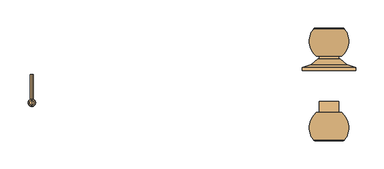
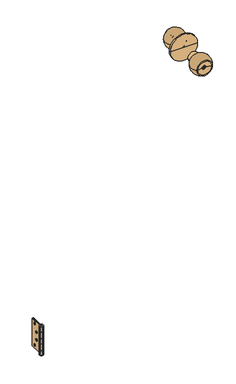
"""IFC4 building model written with IfcOpenShell, lengths in millimetres: door geometry, Puerta contraplacada : Puerta contraplacada 0.7x2.10 m."""

from ifc_helpers import new_model, si_unit, point, frame, frame_2d, origin, place, context, project, spatial, polyline, circle_curve, ellipse_curve, trimmed, segment, composite_curve, outline, extrude, source, transform, mapped, element, save
from ifc_brep_helpers import plane_surface, cylinder_surface, revolved_surface, advanced_brep


def door_be1cc8a4(model_context):
    return source(origin(), model_context, "Body", "SolidModel", [
        advanced_brep(
        [(-314.0, -7.5, 200.0349265), (-314.0, -51.5, 200.0349265), (-314.0, -51.5, 184.5349265), (-314.0, -51.0, 184.5349265), (-314.0, -51.0, 159.0349265), (-314.0, -51.5, 159.0349265), (-314.0, -51.5, 141.0349265), (-314.0, -51.0, 141.0349265), (-314.0, -51.0, 115.5349265), (-314.0, -51.5, 115.5349265), (-314.0, -51.5, 100.0349265), (-314.0, -7.5, 100.0349265), (-314.0, -17.5, 111.0349265), (-314.0, -25.5, 111.0349265), (-314.0, -28.5, 136.0349265), (-314.0, -36.5, 136.0349265), (-314.0, -17.5, 189.0349265), (-314.0, -25.5, 189.0349265), (-314.0, -28.5, 164.0349265), (-314.0, -36.5, 164.0349265), (-316.0, -7.5, 100.0349265), (-316.0, -53.027864, 100.0349265), (-316.0, -53.027864, 115.5349265), (-316.0, -51.0, 115.5349265), (-316.0, -51.0, 141.0349265), (-316.0, -53.027864, 141.0349265), (-316.0, -53.027864, 159.0349265), (-316.0, -51.0, 159.0349265), (-316.0, -51.0, 184.5349265), (-316.0, -53.027864, 184.5349265), (-316.0, -53.027864, 200.0349265), (-316.0, -7.5, 200.0349265), (-316.0, -25.5, 111.0349265), (-316.0, -17.5, 111.0349265), (-316.0, -36.5, 136.0349265), (-316.0, -28.5, 136.0349265), (-316.0, -25.5, 189.0349265), (-316.0, -17.5, 189.0349265), (-316.0, -36.5, 164.0349265), (-316.0, -28.5, 164.0349265), (-317.0, -51.0192593, 100.0349265), (-317.0, -53.027864, 100.0349265), (-317.0, -53.027864, 200.0349265), (-317.0, -51.0192593, 200.0349265), (-317.0, -51.0192593, 184.5349265), (-317.0, -53.027864, 184.5349265), (-317.0, -53.027864, 159.0349265), (-317.0, -51.0192593, 159.0349265), (-317.0, -51.0192593, 141.0349265), (-317.0, -53.027864, 141.0349265), (-317.0, -53.027864, 115.5349265), (-317.0, -51.0192593, 115.5349265)],
        [
            (0, 1),
            (1, 2),
            (2, 3),
            (3, 4),
            (4, 5),
            (5, 6),
            (6, 7),
            (7, 8),
            (8, 9),
            (9, 10),
            (10, 11),
            (11, 0),
            (12, 13, circle_curve(frame((-314.0, -21.5, 111.0349265), z_axis=(-1.0, 0.0, 0.0), x_axis=(0.0, 1.0, 0.0)), 4.0)),
            (13, 12, circle_curve(frame((-314.0, -21.5, 111.0349265), z_axis=(-1.0, 0.0, 0.0), x_axis=(0.0, 1.0, 0.0)), 4.0)),
            (14, 15, circle_curve(frame((-314.0, -32.5, 136.0349265), z_axis=(-1.0, 0.0, 0.0), x_axis=(0.0, 1.0, 0.0)), 4.0)),
            (15, 14, circle_curve(frame((-314.0, -32.5, 136.0349265), z_axis=(-1.0, 0.0, 0.0), x_axis=(0.0, 1.0, 0.0)), 4.0)),
            (16, 17, circle_curve(frame((-314.0, -21.5, 189.0349265), z_axis=(-1.0, 0.0, 0.0), x_axis=(0.0, 1.0, 0.0)), 4.0)),
            (17, 16, circle_curve(frame((-314.0, -21.5, 189.0349265), z_axis=(-1.0, 0.0, 0.0), x_axis=(0.0, 1.0, 0.0)), 4.0)),
            (18, 19, circle_curve(frame((-314.0, -32.5, 164.0349265), z_axis=(-1.0, 0.0, 0.0), x_axis=(0.0, 1.0, 0.0)), 4.0)),
            (19, 18, circle_curve(frame((-314.0, -32.5, 164.0349265), z_axis=(-1.0, 0.0, 0.0), x_axis=(0.0, 1.0, 0.0)), 4.0)),
            (20, 21),
            (21, 22),
            (22, 23),
            (23, 24),
            (24, 25),
            (25, 26),
            (26, 27),
            (27, 28),
            (28, 29),
            (29, 30),
            (30, 31),
            (31, 20),
            (32, 33, circle_curve(frame((-316.0, -21.5, 111.0349265), z_axis=(1.0, 0.0, 0.0), x_axis=(0.0, 1.0, 0.0)), 4.0)),
            (33, 32, circle_curve(frame((-316.0, -21.5, 111.0349265), z_axis=(1.0, 0.0, 0.0), x_axis=(0.0, 1.0, 0.0)), 4.0)),
            (34, 35, circle_curve(frame((-316.0, -32.5, 136.0349265), z_axis=(1.0, 0.0, 0.0), x_axis=(0.0, 1.0, 0.0)), 4.0)),
            (35, 34, circle_curve(frame((-316.0, -32.5, 136.0349265), z_axis=(1.0, 0.0, 0.0), x_axis=(0.0, 1.0, 0.0)), 4.0)),
            (36, 37, circle_curve(frame((-316.0, -21.5, 189.0349265), z_axis=(1.0, 0.0, 0.0), x_axis=(0.0, 1.0, 0.0)), 4.0)),
            (37, 36, circle_curve(frame((-316.0, -21.5, 189.0349265), z_axis=(1.0, 0.0, 0.0), x_axis=(0.0, 1.0, 0.0)), 4.0)),
            (38, 39, circle_curve(frame((-316.0, -32.5, 164.0349265), z_axis=(1.0, 0.0, 0.0), x_axis=(0.0, 1.0, 0.0)), 4.0)),
            (39, 38, circle_curve(frame((-316.0, -32.5, 164.0349265), z_axis=(1.0, 0.0, 0.0), x_axis=(0.0, 1.0, 0.0)), 4.0)),
            (10, 40, circle_curve(frame((-316.5, -57.5, 100.0349265), z_axis=(0.0, 0.0, -1.0), x_axis=(0.0, -1.0, 0.0)), 6.5)),
            (40, 41),
            (41, 21, circle_curve(frame((-316.5, -57.5, 100.0349265), z_axis=(0.0, 0.0, 1.0), x_axis=(0.0, -1.0, 0.0)), 4.5)),
            (20, 11),
            (31, 0),
            (30, 42, circle_curve(frame((-316.5, -57.5, 200.0349265), z_axis=(0.0, 0.0, -1.0), x_axis=(0.0, -1.0, 0.0)), 4.5)),
            (42, 43),
            (43, 1, circle_curve(frame((-316.5, -57.5, 200.0349265), z_axis=(0.0, 0.0, 1.0), x_axis=(0.0, -1.0, 0.0)), 6.5)),
            (27, 4),
            (3, 28),
            (23, 8),
            (7, 24),
            (2, 44, circle_curve(frame((-316.5, -57.5, 184.5349265), z_axis=(0.0, 0.0, -1.0), x_axis=(0.0, -1.0, 0.0)), 6.5)),
            (44, 45),
            (45, 29, circle_curve(frame((-316.5, -57.5, 184.5349265), z_axis=(0.0, 0.0, 1.0), x_axis=(0.0, -1.0, 0.0)), 4.5)),
            (43, 44),
            (42, 45),
            (26, 46, circle_curve(frame((-316.5, -57.5, 159.0349265), z_axis=(0.0, 0.0, -1.0), x_axis=(0.0, -1.0, 0.0)), 4.5)),
            (46, 47),
            (47, 5, circle_curve(frame((-316.5, -57.5, 159.0349265), z_axis=(0.0, 0.0, 1.0), x_axis=(0.0, -1.0, 0.0)), 6.5)),
            (6, 48, circle_curve(frame((-316.5, -57.5, 141.0349265), z_axis=(0.0, 0.0, -1.0), x_axis=(0.0, -1.0, 0.0)), 6.5)),
            (48, 49),
            (49, 25, circle_curve(frame((-316.5, -57.5, 141.0349265), z_axis=(0.0, 0.0, 1.0), x_axis=(0.0, -1.0, 0.0)), 4.5)),
            (47, 48),
            (46, 49),
            (22, 50, circle_curve(frame((-316.5, -57.5, 115.5349265), z_axis=(0.0, 0.0, -1.0), x_axis=(0.0, -1.0, 0.0)), 4.5)),
            (50, 51),
            (51, 9, circle_curve(frame((-316.5, -57.5, 115.5349265), z_axis=(0.0, 0.0, 1.0), x_axis=(0.0, -1.0, 0.0)), 6.5)),
            (51, 40),
            (50, 41),
            (33, 12),
            (13, 32),
            (35, 14),
            (15, 34),
            (37, 16),
            (17, 36),
            (39, 18),
            (19, 38),
        ],
        [
            plane_surface(frame((-314.0, -51.0, 100.0349265), z_axis=(1.0, 0.0, 0.0), x_axis=(0.0, 0.0, 1.0))),
            plane_surface(frame((-316.0, -51.0, 100.0349265), z_axis=(-1.0, 0.0, 0.0), x_axis=(0.0, 0.0, -1.0))),
            plane_surface(frame((-314.0, -7.5, 100.0349265), z_axis=(0.0, 0.0, -1.0), x_axis=(-1.0, 0.0, 0.0))),
            plane_surface(frame((-314.0, -7.5, 200.0349265), z_axis=(0.0, 1.0, 0.0), x_axis=(-1.0, 0.0, 0.0))),
            plane_surface(frame((-314.0, -51.0, 200.0349265), z_axis=(0.0, 0.0, 1.0), x_axis=(-1.0, 0.0, 0.0))),
            plane_surface(frame((-314.0, -51.0, 100.0349265), z_axis=(0.0, -1.0, 0.0), x_axis=(-1.0, 0.0, 0.0))),
            plane_surface(frame((-316.0, -51.0, 184.5349265), z_axis=(0.0, 0.0, -1.0), x_axis=(0.0, -1.0, 0.0))),
            cylinder_surface(frame((-316.5, -57.5, 184.5349265), z_axis=(0.0, 0.0, 1.0), x_axis=(0.0, -1.0, 0.0)), 6.5),
            plane_surface(frame((-317.0, -51.0192593, 200.0349265), z_axis=(1.0, 0.0, 0.0), x_axis=(0.0, 0.0, -1.0))),
            revolved_surface(polyline([(-316.5, -62.0, 184.5349265), (-316.5, -62.0, 200.0349265)]), (-316.5, -57.5, 184.5349265), (0.0, 0.0, -1.0)),
            plane_surface(frame((-316.0, -51.0, 159.0349265), z_axis=(0.0, 0.0, 1.0), x_axis=(0.0, 1.0, 0.0))),
            plane_surface(frame((-316.0, -51.0, 141.0349265), z_axis=(0.0, 0.0, -1.0), x_axis=(0.0, -1.0, 0.0))),
            cylinder_surface(frame((-316.5, -57.5, 141.0349265), z_axis=(0.0, 0.0, 1.0), x_axis=(0.0, -1.0, 0.0)), 6.5),
            plane_surface(frame((-317.0, -51.0192593, 159.0349265), z_axis=(1.0, 0.0, 0.0), x_axis=(0.0, 0.0, -1.0))),
            revolved_surface(polyline([(-316.5, -62.0, 141.0349265), (-316.5, -62.0, 159.0349265)]), (-316.5, -57.5, 141.0349265), (0.0, 0.0, -1.0)),
            plane_surface(frame((-316.0, -51.0, 115.5349265), z_axis=(0.0, 0.0, 1.0), x_axis=(0.0, 1.0, 0.0))),
            cylinder_surface(frame((-316.5, -57.5, 100.0349265), z_axis=(0.0, 0.0, 1.0), x_axis=(0.0, -1.0, 0.0)), 6.5),
            plane_surface(frame((-317.0, -51.0192593, 115.5349265), z_axis=(1.0, 0.0, 0.0), x_axis=(0.0, 0.0, -1.0))),
            revolved_surface(polyline([(-316.5, -62.0, 100.0349265), (-316.5, -62.0, 115.5349265)]), (-316.5, -57.5, 100.0349265), (0.0, 0.0, -1.0)),
            revolved_surface(polyline([(-314.0, -17.5, 111.0349265), (-316.0, -17.5, 111.0349265)]), (-319.0, -21.5, 111.0349265), (1.0, 0.0, 0.0)),
            revolved_surface(polyline([(-314.0, -28.5, 136.0349265), (-316.0, -28.5, 136.0349265)]), (-317.0, -32.5, 136.0349265), (1.0, 0.0, 0.0)),
            revolved_surface(polyline([(-314.0, -17.5, 189.0349265), (-316.0, -17.5, 189.0349265)]), (-317.0, -21.5, 189.0349265), (1.0, 0.0, 0.0)),
            revolved_surface(polyline([(-314.0, -28.5, 164.0349265), (-316.0, -28.5, 164.0349265)]), (-317.0, -32.5, 164.0349265), (1.0, 0.0, 0.0)),
        ],
        [
            (0, [[1, 2, 3, 4, 5, 6, 7, 8, 9, 10, 11, 12], [13, 14], [15, 16], [17, 18], [19, 20]]),
            (1, [[21, 22, 23, 24, 25, 26, 27, 28, 29, 30, 31, 32], [33, 34], [35, 36], [37, 38], [39, 40]]),
            (2, [[-11, 41, 42, 43, -21, 44]]),
            (3, [[-44, -32, 45, -12]]),
            (4, [[-31, 46, 47, 48, -1, -45]]),
            (5, [[-28, 49, -4, 50]]),
            (5, [[-24, 51, -8, 52]]),
            (6, [[-29, -50, -3, 53, 54, 55]]),
            (7, [[56, -53, -2, -48]]),
            (8, [[57, -54, -56, -47]]),
            (9, [[-30, -55, -57, -46]]),
            (10, [[-5, -49, -27, 58, 59, 60]]),
            (11, [[-25, -52, -7, 61, 62, 63]]),
            (12, [[64, -61, -6, -60]]),
            (13, [[65, -62, -64, -59]]),
            (14, [[-26, -63, -65, -58]]),
            (15, [[-9, -51, -23, 66, 67, 68]]),
            (16, [[69, -41, -10, -68]]),
            (17, [[70, -42, -69, -67]]),
            (18, [[-22, -43, -70, -66]]),
            (19, [[-34, 71, -14, 72]]),
            (19, [[-13, -71, -33, -72]]),
            (20, [[-36, 73, -16, 74]]),
            (20, [[-15, -73, -35, -74]]),
            (21, [[-38, 75, -18, 76]]),
            (21, [[-17, -75, -37, -76]]),
            (22, [[-40, 77, -20, 78]]),
            (22, [[-19, -77, -39, -78]]),
        ],
    ),
        advanced_brep(
        [(-316.5, -53.0, 204.0349265), (-316.5, -53.0, 200.5349265), (-316.5, -61.9442719, 200.5349265), (-316.5, -61.9442719, 204.0349265), (-316.5, -57.472136, 204.0349265), (-316.5, -53.0, 96.0349265), (-316.5, -57.472136, 96.0349265), (-316.5, -61.9442719, 96.0349265), (-316.5, -53.0, 99.5349265), (-316.5, -61.9442719, 99.5349265)],
        [
            (0, 1, circle_curve(frame((-316.5, -53.0, 202.2849265), z_axis=(-1.0, 0.0, 0.0), x_axis=(0.0, -1.0, 0.0)), 1.75)),
            (1, 2, circle_curve(frame((-316.5, -57.472136, 200.5349265), z_axis=(0.0, 0.0, 1.0), x_axis=(0.0, -1.0, 0.0)), 4.472136)),
            (2, 3, circle_curve(frame((-316.5, -61.9442719, 202.2849265), z_axis=(-1.0, 0.0, 0.0), x_axis=(0.0, 1.0, 0.0)), 1.75)),
            (3, 0, circle_curve(frame((-316.5, -57.472136, 204.0349265), z_axis=(0.0, 0.0, -1.0), x_axis=(0.0, -1.0, 0.0)), 4.472136)),
            (2, 1, circle_curve(frame((-316.5, -57.472136, 200.5349265), z_axis=(0.0, 0.0, 1.0), x_axis=(0.0, -1.0, 0.0)), 4.472136)),
            (0, 3, circle_curve(frame((-316.5, -57.472136, 204.0349265), z_axis=(0.0, 0.0, -1.0), x_axis=(0.0, -1.0, 0.0)), 4.472136)),
            (4, 0),
            (3, 4),
            (5, 6),
            (6, 7),
            (7, 5, circle_curve(frame((-316.5, -57.472136, 96.0349265), z_axis=(0.0, 0.0, -1.0), x_axis=(0.0, -1.0, 0.0)), 4.472136)),
            (5, 7, circle_curve(frame((-316.5, -57.472136, 96.0349265), z_axis=(0.0, 0.0, -1.0), x_axis=(0.0, -1.0, 0.0)), 4.472136)),
            (8, 5, circle_curve(frame((-316.5, -53.0, 97.7849265), z_axis=(-1.0, 0.0, 0.0), x_axis=(0.0, -1.0, 0.0)), 1.75)),
            (7, 9, circle_curve(frame((-316.5, -61.9442719, 97.7849265), z_axis=(-1.0, 0.0, 0.0), x_axis=(0.0, 1.0, 0.0)), 1.75)),
            (9, 8, circle_curve(frame((-316.5, -57.472136, 99.5349265), z_axis=(0.0, 0.0, -1.0), x_axis=(0.0, -1.0, 0.0)), 4.472136)),
            (8, 9, circle_curve(frame((-316.5, -57.472136, 99.5349265), z_axis=(0.0, 0.0, -1.0), x_axis=(0.0, -1.0, 0.0)), 4.472136)),
            (1, 8),
            (9, 2),
        ],
        [
            revolved_surface(trimmed(ellipse_curve(frame((-316.5, -61.9442719, 202.2849265), z_axis=(-1.0, 0.0, 0.0), x_axis=(0.0, 1.0, 0.0)), 1.75, 1.75), [point((-316.5, -61.9442719, 200.5349265))], [point((-316.5, -61.9442719, 204.0349265))], True, "CARTESIAN"), (-316.5, -57.472136, 204.0349265), (0.0, 0.0, 1.0)),
            plane_surface(frame((-316.5, -57.472136, 204.0349265), z_axis=(0.0, 0.0, 1.0), x_axis=(0.0, -1.0, 0.0))),
            plane_surface(frame((-316.5, -57.472136, 96.0349265), z_axis=(0.0, 0.0, -1.0), x_axis=(0.0, -1.0, 0.0))),
            revolved_surface(trimmed(ellipse_curve(frame((-316.5, -61.9442719, 97.7849265), z_axis=(-1.0, 0.0, 0.0), x_axis=(0.0, 1.0, 0.0)), 1.75, 1.75), [point((-316.5, -61.9442719, 96.0349265))], [point((-316.5, -61.9442719, 99.5349265))], True, "CARTESIAN"), (-316.5, -57.472136, 204.0349265), (0.0, 0.0, 1.0)),
            cylinder_surface(frame((-316.5, -57.472136, 204.0349265), z_axis=(0.0, 0.0, 1.0), x_axis=(0.0, -1.0, 0.0)), 4.472136),
        ],
        [
            (0, [[1, 2, 3, 4]]),
            (0, [[-3, 5, -1, 6]]),
            (1, [[7, -4, 8]]),
            (1, [[-8, -6, -7]]),
            (2, [[9, 10, 11]]),
            (2, [[-10, -9, 12]]),
            (3, [[13, -11, 14, 15]]),
            (3, [[-14, -12, -13, 16]]),
            (4, [[17, -15, 18, -2]]),
            (4, [[-18, -16, -17, -5]]),
        ],
    ),
        advanced_brep(
        [(-317.0, -51.0, 200.0349265), (-317.0, -51.0, 183.5349265), (-317.0, -53.027864, 183.5349265), (-317.0, -53.027864, 160.0349265), (-317.0, -51.0, 160.0349265), (-317.0, -51.0, 140.0349265), (-317.0, -53.027864, 140.0349265), (-317.0, -53.027864, 116.5349265), (-317.0, -51.0, 116.5349265), (-317.0, -51.0, 100.0349265), (-317.0, -7.5, 100.0349265), (-317.0, -7.5, 200.0349265), (-317.0, -17.5, 111.0349265), (-317.0, -25.5, 111.0349265), (-317.0, -28.5, 136.0349265), (-317.0, -36.5, 136.0349265), (-317.0, -17.5, 189.0349265), (-317.0, -25.5, 189.0349265), (-317.0, -28.5, 164.0349265), (-317.0, -36.5, 164.0349265), (-319.0, -51.0, 100.0349265), (-319.0, -51.0, 116.5349265), (-319.0, -51.5, 116.5349265), (-319.0, -51.5, 140.0349265), (-319.0, -51.0, 140.0349265), (-319.0, -51.0, 160.0349265), (-319.0, -51.5, 160.0349265), (-319.0, -51.5, 183.5349265), (-319.0, -51.0, 183.5349265), (-319.0, -51.0, 200.0349265), (-319.0, -7.5, 200.0349265), (-319.0, -7.5, 100.0349265), (-319.0, -25.5, 111.0349265), (-319.0, -17.5, 111.0349265), (-319.0, -36.5, 136.0349265), (-319.0, -28.5, 136.0349265), (-319.0, -25.5, 189.0349265), (-319.0, -17.5, 189.0349265), (-319.0, -36.5, 164.0349265), (-319.0, -28.5, 164.0349265), (-316.0, -51.0192593, 183.5349265), (-316.0, -53.027864, 183.5349265), (-316.0, -53.027864, 160.0349265), (-316.0, -51.0192593, 160.0349265), (-316.0, -51.0192593, 140.0349265), (-316.0, -53.027864, 140.0349265), (-316.0, -53.027864, 116.5349265), (-316.0, -51.0192593, 116.5349265)],
        [
            (0, 1),
            (1, 2),
            (2, 3),
            (3, 4),
            (4, 5),
            (5, 6),
            (6, 7),
            (7, 8),
            (8, 9),
            (9, 10),
            (10, 11),
            (11, 0),
            (12, 13, circle_curve(frame((-317.0, -21.5, 111.0349265), z_axis=(-1.0, 0.0, 0.0), x_axis=(0.0, 1.0, 0.0)), 4.0)),
            (13, 12, circle_curve(frame((-317.0, -21.5, 111.0349265), z_axis=(-1.0, 0.0, 0.0), x_axis=(0.0, 1.0, 0.0)), 4.0)),
            (14, 15, circle_curve(frame((-317.0, -32.5, 136.0349265), z_axis=(-1.0, 0.0, 0.0), x_axis=(0.0, 1.0, 0.0)), 4.0)),
            (15, 14, circle_curve(frame((-317.0, -32.5, 136.0349265), z_axis=(-1.0, 0.0, 0.0), x_axis=(0.0, 1.0, 0.0)), 4.0)),
            (16, 17, circle_curve(frame((-317.0, -21.5, 189.0349265), z_axis=(-1.0, 0.0, 0.0), x_axis=(0.0, 1.0, 0.0)), 4.0)),
            (17, 16, circle_curve(frame((-317.0, -21.5, 189.0349265), z_axis=(-1.0, 0.0, 0.0), x_axis=(0.0, 1.0, 0.0)), 4.0)),
            (18, 19, circle_curve(frame((-317.0, -32.5, 164.0349265), z_axis=(-1.0, 0.0, 0.0), x_axis=(0.0, 1.0, 0.0)), 4.0)),
            (19, 18, circle_curve(frame((-317.0, -32.5, 164.0349265), z_axis=(-1.0, 0.0, 0.0), x_axis=(0.0, 1.0, 0.0)), 4.0)),
            (20, 21),
            (21, 22),
            (22, 23),
            (23, 24),
            (24, 25),
            (25, 26),
            (26, 27),
            (27, 28),
            (28, 29),
            (29, 30),
            (30, 31),
            (31, 20),
            (32, 33, circle_curve(frame((-319.0, -21.5, 111.0349265), z_axis=(1.0, 0.0, 0.0), x_axis=(0.0, 1.0, 0.0)), 4.0)),
            (33, 32, circle_curve(frame((-319.0, -21.5, 111.0349265), z_axis=(1.0, 0.0, 0.0), x_axis=(0.0, 1.0, 0.0)), 4.0)),
            (34, 35, circle_curve(frame((-319.0, -32.5, 136.0349265), z_axis=(1.0, 0.0, 0.0), x_axis=(0.0, 1.0, 0.0)), 4.0)),
            (35, 34, circle_curve(frame((-319.0, -32.5, 136.0349265), z_axis=(1.0, 0.0, 0.0), x_axis=(0.0, 1.0, 0.0)), 4.0)),
            (36, 37, circle_curve(frame((-319.0, -21.5, 189.0349265), z_axis=(1.0, 0.0, 0.0), x_axis=(0.0, 1.0, 0.0)), 4.0)),
            (37, 36, circle_curve(frame((-319.0, -21.5, 189.0349265), z_axis=(1.0, 0.0, 0.0), x_axis=(0.0, 1.0, 0.0)), 4.0)),
            (38, 39, circle_curve(frame((-319.0, -32.5, 164.0349265), z_axis=(1.0, 0.0, 0.0), x_axis=(0.0, 1.0, 0.0)), 4.0)),
            (39, 38, circle_curve(frame((-319.0, -32.5, 164.0349265), z_axis=(1.0, 0.0, 0.0), x_axis=(0.0, 1.0, 0.0)), 4.0)),
            (9, 20),
            (31, 10),
            (30, 11),
            (29, 0),
            (8, 21),
            (28, 1),
            (24, 5),
            (4, 25),
            (27, 40, circle_curve(frame((-316.5, -57.5, 183.5349265), z_axis=(0.0, 0.0, 1.0), x_axis=(0.0, -1.0, 0.0)), 6.5)),
            (40, 41),
            (41, 2, circle_curve(frame((-316.5, -57.5, 183.5349265), z_axis=(0.0, 0.0, -1.0), x_axis=(0.0, -1.0, 0.0)), 4.5)),
            (3, 42, circle_curve(frame((-316.5, -57.5, 160.0349265), z_axis=(0.0, 0.0, 1.0), x_axis=(0.0, -1.0, 0.0)), 4.5)),
            (42, 43),
            (43, 26, circle_curve(frame((-316.5, -57.5, 160.0349265), z_axis=(0.0, 0.0, -1.0), x_axis=(0.0, -1.0, 0.0)), 6.5)),
            (43, 40),
            (42, 41),
            (23, 44, circle_curve(frame((-316.5, -57.5, 140.0349265), z_axis=(0.0, 0.0, 1.0), x_axis=(0.0, -1.0, 0.0)), 6.5)),
            (44, 45),
            (45, 6, circle_curve(frame((-316.5, -57.5, 140.0349265), z_axis=(0.0, 0.0, -1.0), x_axis=(0.0, -1.0, 0.0)), 4.5)),
            (7, 46, circle_curve(frame((-316.5, -57.5, 116.5349265), z_axis=(0.0, 0.0, 1.0), x_axis=(0.0, -1.0, 0.0)), 4.5)),
            (46, 47),
            (47, 22, circle_curve(frame((-316.5, -57.5, 116.5349265), z_axis=(0.0, 0.0, -1.0), x_axis=(0.0, -1.0, 0.0)), 6.5)),
            (47, 44),
            (46, 45),
            (33, 12),
            (13, 32),
            (35, 14),
            (15, 34),
            (37, 16),
            (17, 36),
            (39, 18),
            (19, 38),
        ],
        [
            plane_surface(frame((-317.0, -51.0, 100.0349265), z_axis=(1.0, 0.0, 0.0), x_axis=(0.0, 0.0, 1.0))),
            plane_surface(frame((-319.0, -51.0, 100.0349265), z_axis=(-1.0, 0.0, 0.0), x_axis=(0.0, 0.0, -1.0))),
            plane_surface(frame((-317.0, -7.5, 100.0349265), z_axis=(0.0, 0.0, -1.0), x_axis=(-1.0, 0.0, 0.0))),
            plane_surface(frame((-317.0, -7.5, 200.0349265), z_axis=(0.0, 1.0, 0.0), x_axis=(-1.0, 0.0, 0.0))),
            plane_surface(frame((-317.0, -51.0, 200.0349265), z_axis=(0.0, 0.0, 1.0), x_axis=(-1.0, 0.0, 0.0))),
            plane_surface(frame((-317.0, -51.0, 100.0349265), z_axis=(0.0, -1.0, 0.0), x_axis=(-1.0, 0.0, 0.0))),
            plane_surface(frame((-316.5, -62.0, 183.5349265), z_axis=(0.0, 0.0, 1.0), x_axis=(1.0, 0.0, 0.0))),
            plane_surface(frame((-316.5, -62.0, 160.0349265), z_axis=(0.0, 0.0, -1.0), x_axis=(-1.0, 0.0, 0.0))),
            cylinder_surface(frame((-316.5, -57.5, 160.0349265), z_axis=(0.0, 0.0, 1.0), x_axis=(0.0, -1.0, 0.0)), 6.5),
            plane_surface(frame((-316.0, -53.027864, 183.5349265), z_axis=(-1.0, 0.0, 0.0), x_axis=(0.0, 0.0, -1.0))),
            revolved_surface(polyline([(-316.5, -62.0, 160.0349265), (-316.5, -62.0, 183.5349265)]), (-316.5, -57.5, 160.0349265), (0.0, 0.0, -1.0)),
            plane_surface(frame((-316.5, -62.0, 140.0349265), z_axis=(0.0, 0.0, 1.0), x_axis=(1.0, 0.0, 0.0))),
            plane_surface(frame((-316.5, -62.0, 116.5349265), z_axis=(0.0, 0.0, -1.0), x_axis=(-1.0, 0.0, 0.0))),
            cylinder_surface(frame((-316.5, -57.5, 116.5349265), z_axis=(0.0, 0.0, 1.0), x_axis=(0.0, -1.0, 0.0)), 6.5),
            plane_surface(frame((-316.0, -53.027864, 140.0349265), z_axis=(-1.0, 0.0, 0.0), x_axis=(0.0, 0.0, -1.0))),
            revolved_surface(polyline([(-316.5, -62.0, 116.5349265), (-316.5, -62.0, 140.0349265)]), (-316.5, -57.5, 116.5349265), (0.0, 0.0, -1.0)),
            revolved_surface(polyline([(-317.0, -17.5, 111.0349265), (-319.0, -17.5, 111.0349265)]), (-319.0, -21.5, 111.0349265), (1.0, 0.0, 0.0)),
            revolved_surface(polyline([(-317.0, -28.5, 136.0349265), (-319.0, -28.5, 136.0349265)]), (-317.0, -32.5, 136.0349265), (1.0, 0.0, 0.0)),
            revolved_surface(polyline([(-317.0, -17.5, 189.0349265), (-319.0, -17.5, 189.0349265)]), (-317.0, -21.5, 189.0349265), (1.0, 0.0, 0.0)),
            revolved_surface(polyline([(-317.0, -28.5, 164.0349265), (-319.0, -28.5, 164.0349265)]), (-317.0, -32.5, 164.0349265), (1.0, 0.0, 0.0)),
        ],
        [
            (0, [[1, 2, 3, 4, 5, 6, 7, 8, 9, 10, 11, 12], [13, 14], [15, 16], [17, 18], [19, 20]]),
            (1, [[21, 22, 23, 24, 25, 26, 27, 28, 29, 30, 31, 32], [33, 34], [35, 36], [37, 38], [39, 40]]),
            (2, [[41, -32, 42, -10]]),
            (3, [[-42, -31, 43, -11]]),
            (4, [[-43, -30, 44, -12]]),
            (5, [[-9, 45, -21, -41]]),
            (5, [[-29, 46, -1, -44]]),
            (5, [[-25, 47, -5, 48]]),
            (6, [[-2, -46, -28, 49, 50, 51]]),
            (7, [[-26, -48, -4, 52, 53, 54]]),
            (8, [[-27, -54, 55, -49]]),
            (9, [[-55, -53, 56, -50]]),
            (10, [[-56, -52, -3, -51]]),
            (11, [[-6, -47, -24, 57, 58, 59]]),
            (12, [[-22, -45, -8, 60, 61, 62]]),
            (13, [[-23, -62, 63, -57]]),
            (14, [[-63, -61, 64, -58]]),
            (15, [[-64, -60, -7, -59]]),
            (16, [[-34, 65, -14, 66]]),
            (16, [[-13, -65, -33, -66]]),
            (17, [[-36, 67, -16, 68]]),
            (17, [[-15, -67, -35, -68]]),
            (18, [[-38, 69, -18, 70]]),
            (18, [[-17, -69, -37, -70]]),
            (19, [[-40, 71, -20, 72]]),
            (19, [[-19, -71, -39, -72]]),
        ],
    ),
        advanced_brep(
        [(233.5312643, 74.946362, 1000.0), (216.48125, 70.0573491, 1000.0), (204.08125, 70.0573491, 1000.0), (187.0312357, 74.946362, 1000.0), (216.48125, 66.5726145, 1000.0), (204.08125, 66.5726145, 1000.0), (210.28125, 66.5726145, 1000.0), (187.840796, 25.0, 1000.0), (209.28125, 25.0, 1000.0), (210.28125, 25.0, 1000.0), (210.28125, 25.0, 1004.2233344), (211.28125, 25.0, 1004.2233344), (211.28125, 25.0, 1000.0), (232.721704, 25.0, 1000.0), (211.28125, 25.0, 995.9198337), (209.28125, 25.0, 995.9198337), (209.28125, 25.0, 997.5508857), (210.28125, 25.0, 997.5508857), (210.28125, 25.0, 998.7784645), (209.28125, 25.0, 998.7784645), (237.7045262, 73.6071088, 1000.0), (182.8579738, 73.6071088, 1000.0), (211.28125, 33.4273855, 995.9198337), (211.28125, 33.4273855, 1004.2233344), (210.28125, 33.4273855, 1004.2233344), (210.28125, 33.4273855, 1000.0), (209.28125, 33.4273855, 1000.0), (209.28125, 33.4273855, 998.7784645), (210.28125, 33.4273855, 998.7784645), (210.28125, 33.4273855, 997.5508857), (209.28125, 33.4273855, 997.5508857), (209.28125, 33.4273855, 995.9198337)],
        [
            (0, 1),
            (1, 2, circle_curve(frame((210.28125, 70.0573491, 1000.0), z_axis=(0.0, -1.0, 0.0), x_axis=(-1.0, 0.0, 0.0)), 6.2)),
            (2, 3),
            (3, 0, circle_curve(frame((210.28125, 74.946362, 1000.0), z_axis=(0.0, 1.0, 0.0), x_axis=(-1.0, 0.0, 0.0)), 23.2500143)),
            (2, 1, circle_curve(frame((210.28125, 70.0573491, 1000.0), z_axis=(0.0, -1.0, 0.0), x_axis=(-1.0, 0.0, 0.0)), 6.2)),
            (0, 3, circle_curve(frame((210.28125, 74.946362, 1000.0), z_axis=(0.0, 1.0, 0.0), x_axis=(-1.0, 0.0, 0.0)), 23.2500143)),
            (1, 4),
            (4, 5, circle_curve(frame((210.28125, 66.5726145, 1000.0), z_axis=(0.0, -1.0, 0.0), x_axis=(-1.0, 0.0, 0.0)), 6.2)),
            (5, 2),
            (5, 4, circle_curve(frame((210.28125, 66.5726145, 1000.0), z_axis=(0.0, -1.0, 0.0), x_axis=(-1.0, 0.0, 0.0)), 6.2)),
            (4, 6),
            (6, 5),
            (7, 8),
            (8, 9),
            (9, 10),
            (10, 11),
            (11, 12),
            (12, 13),
            (13, 7, circle_curve(frame((210.28125, 25.0, 1000.0), z_axis=(0.0, -1.0, 0.0), x_axis=(-1.0, 0.0, 0.0)), 22.440454)),
            (12, 14),
            (14, 15),
            (15, 16),
            (16, 17),
            (17, 18),
            (18, 19),
            (19, 8),
            (7, 13, circle_curve(frame((210.28125, 25.0, 1000.0), z_axis=(0.0, -1.0, 0.0), x_axis=(-1.0, 0.0, 0.0)), 22.440454)),
            (13, 20, circle_curve(frame((210.28125, 51.859375, 1000.0), z_axis=(0.0, 0.0, 1.0), x_axis=(-1.0, 0.0, 0.0)), 35.0)),
            (20, 21, circle_curve(frame((210.28125, 73.6071088, 1000.0), z_axis=(0.0, -1.0, 0.0), x_axis=(-1.0, 0.0, 0.0)), 27.4232762)),
            (21, 7, circle_curve(frame((210.28125, 51.859375, 1000.0), z_axis=(0.0, 0.0, 1.0), x_axis=(1.0, 0.0, 0.0)), 35.0)),
            (21, 20, circle_curve(frame((210.28125, 73.6071088, 1000.0), z_axis=(0.0, -1.0, 0.0), x_axis=(-1.0, 0.0, 0.0)), 27.4232762)),
            (3, 21, circle_curve(frame((185.9451794, 71.1588336, 1000.0), z_axis=(0.0, 0.0, 1.0), x_axis=(1.0, 0.0, 0.0)), 3.9401636)),
            (20, 0, circle_curve(frame((234.6173206, 71.1588336, 1000.0), z_axis=(0.0, 0.0, 1.0), x_axis=(-1.0, 0.0, 0.0)), 3.9401636)),
            (22, 23),
            (23, 24),
            (24, 25),
            (25, 26),
            (26, 27),
            (27, 28),
            (28, 29),
            (29, 30),
            (30, 31),
            (31, 22),
            (31, 15),
            (14, 22),
            (30, 16),
            (29, 17),
            (28, 18),
            (27, 19),
            (26, 8),
            (25, 9),
            (24, 10),
            (23, 11),
        ],
        [
            revolved_surface(polyline([(204.08125, 70.0573491, 1000.0), (187.0312357, 74.946362, 1000.0)]), (210.28125, 27.0, 1000.0), (0.0, -1.0, 0.0)),
            revolved_surface(polyline([(204.08125, 66.5726145, 1000.0), (204.08125, 70.0573491, 1000.0)]), (210.28125, 27.0, 1000.0), (0.0, -1.0, 0.0)),
            plane_surface(frame((210.28125, 66.5726145, 1000.0), z_axis=(0.0, 1.0, 0.0), x_axis=(-1.0, 0.0, 0.0))),
            plane_surface(frame((210.28125, 25.0, 1000.0), z_axis=(0.0, -1.0, 0.0), x_axis=(-1.0, 0.0, 0.0))),
            revolved_surface(trimmed(ellipse_curve(frame((210.28125, 51.859375, 1000.0), z_axis=(0.0, 0.0, 1.0), x_axis=(1.0, 0.0, 0.0)), 35.0, 35.0), [point((182.8579738, 73.6071088, 1000.0))], [point((187.840796, 25.0, 1000.0))], True, "CARTESIAN"), (210.28125, 27.0, 1000.0), (0.0, -1.0, 0.0)),
            revolved_surface(trimmed(ellipse_curve(frame((185.9451794, 71.1588336, 1000.0), z_axis=(0.0, 0.0, 1.0), x_axis=(1.0, 0.0, 0.0)), 3.9401636, 3.9401636), [point((187.0312357, 74.946362, 1000.0))], [point((182.8579738, 73.6071088, 1000.0))], True, "CARTESIAN"), (210.28125, 27.0, 1000.0), (0.0, -1.0, 0.0)),
            plane_surface(frame((209.28125, 33.4273855, 995.9198337), z_axis=(0.0, -1.0, 0.0), x_axis=(1.0, 0.0, 0.0))),
            plane_surface(frame((211.28125, 18.8970167, 995.9198337), z_axis=(0.0, 0.0, 1.0), x_axis=(0.0, 1.0, 0.0))),
            plane_surface(frame((209.28125, 18.8970167, 995.9198337), z_axis=(1.0, 0.0, 0.0), x_axis=(0.0, 1.0, 0.0))),
            plane_surface(frame((209.28125, 18.8970167, 997.5508857), z_axis=(0.0, 0.0, -1.0), x_axis=(0.0, 1.0, 0.0))),
            plane_surface(frame((210.28125, 18.8970167, 997.5508857), z_axis=(1.0, 0.0, 0.0), x_axis=(0.0, 1.0, 0.0))),
            plane_surface(frame((210.28125, 18.8970167, 998.7784645), z_axis=(0.0, 0.0, 1.0), x_axis=(0.0, 1.0, 0.0))),
            plane_surface(frame((209.28125, 18.8970167, 998.7784645), z_axis=(1.0, 0.0, 0.0), x_axis=(0.0, 1.0, 0.0))),
            plane_surface(frame((209.28125, 18.8970167, 1000.0), z_axis=(0.0, 0.0, -1.0), x_axis=(0.0, 1.0, 0.0))),
            plane_surface(frame((210.28125, 18.8970167, 1000.0), z_axis=(1.0, 0.0, 0.0), x_axis=(0.0, 1.0, 0.0))),
            plane_surface(frame((210.28125, 18.8970167, 1004.2233344), z_axis=(0.0, 0.0, -1.0), x_axis=(0.0, 1.0, 0.0))),
            plane_surface(frame((211.28125, 18.8970167, 1004.2233344), z_axis=(-1.0, 0.0, 0.0), x_axis=(0.0, 1.0, 0.0))),
        ],
        [
            (0, [[1, 2, 3, 4]]),
            (0, [[5, -1, 6, -3]]),
            (1, [[7, 8, 9, -2]]),
            (1, [[-9, 10, -7, -5]]),
            (2, [[11, 12, -8]]),
            (2, [[-12, -11, -10]]),
            (3, [[13, 14, 15, 16, 17, 18, 19]]),
            (3, [[-18, 20, 21, 22, 23, 24, 25, 26, -13, 27]]),
            (4, [[28, 29, 30, -19]]),
            (4, [[-30, 31, -28, -27]]),
            (5, [[32, -29, 33, -4]]),
            (5, [[-33, -31, -32, -6]]),
            (6, [[34, 35, 36, 37, 38, 39, 40, 41, 42, 43]]),
            (7, [[44, -21, 45, -43]]),
            (8, [[46, -22, -44, -42]]),
            (9, [[47, -23, -46, -41]]),
            (10, [[48, -24, -47, -40]]),
            (11, [[49, -25, -48, -39]]),
            (12, [[50, -26, -49, -38]]),
            (13, [[51, -14, -50, -37]]),
            (14, [[52, -15, -51, -36]]),
            (15, [[53, -16, -52, -35]]),
            (16, [[-45, -20, -17, -53, -34]]),
        ],
    ),
        advanced_brep(
        [(192.78125, 5.0, 1000.0), (227.78125, 5.0, 1000.0), (192.78125, 25.0, 1000.0), (227.78125, 25.0, 1000.0), (211.28125, 25.0, 995.9198337), (211.28125, 25.0, 1004.2233344), (210.28125, 25.0, 1004.2233344), (210.28125, 25.0, 1000.0), (209.28125, 25.0, 1000.0), (209.28125, 25.0, 998.7784645), (210.28125, 25.0, 998.7784645), (210.28125, 25.0, 997.5508857), (209.28125, 25.0, 997.5508857), (209.28125, 25.0, 995.9198337), (211.28125, 18.8970167, 995.9198337), (209.28125, 18.8970167, 995.9198337), (209.28125, 18.8970167, 997.5508857), (210.28125, 18.8970167, 997.5508857), (210.28125, 18.8970167, 998.7784645), (209.28125, 18.8970167, 998.7784645), (209.28125, 18.8970167, 1000.0), (210.28125, 18.8970167, 1000.0), (210.28125, 18.8970167, 1004.2233344), (211.28125, 18.8970167, 1004.2233344)],
        [
            (0, 1, circle_curve(frame((210.28125, 5.0, 1000.0), z_axis=(0.0, -1.0, 0.0), x_axis=(1.0, 0.0, 0.0)), 17.5)),
            (1, 0, circle_curve(frame((210.28125, 5.0, 1000.0), z_axis=(0.0, -1.0, 0.0), x_axis=(1.0, 0.0, 0.0)), 17.5)),
            (2, 3, circle_curve(frame((210.28125, 25.0, 1000.0), z_axis=(0.0, 1.0, 0.0), x_axis=(1.0, 0.0, 0.0)), 17.5)),
            (3, 2, circle_curve(frame((210.28125, 25.0, 1000.0), z_axis=(0.0, 1.0, 0.0), x_axis=(1.0, 0.0, 0.0)), 17.5)),
            (4, 5),
            (5, 6),
            (6, 7),
            (7, 8),
            (8, 9),
            (9, 10),
            (10, 11),
            (11, 12),
            (12, 13),
            (13, 4),
            (1, 3),
            (2, 0),
            (14, 15),
            (15, 16),
            (16, 17),
            (17, 18),
            (18, 19),
            (19, 20),
            (20, 21),
            (21, 22),
            (22, 23),
            (23, 14),
            (14, 4),
            (13, 15),
            (12, 16),
            (11, 17),
            (10, 18),
            (9, 19),
            (8, 20),
            (7, 21),
            (6, 22),
            (5, 23),
        ],
        [
            plane_surface(frame((227.78125, 5.0, 1000.0), z_axis=(0.0, -1.0, 0.0), x_axis=(0.0, 0.0, -1.0))),
            plane_surface(frame((227.78125, 25.0, 1000.0), z_axis=(0.0, 1.0, 0.0), x_axis=(0.0, 0.0, 1.0))),
            cylinder_surface(frame((210.28125, 25.0, 1000.0), z_axis=(0.0, -1.0, 0.0), x_axis=(1.0, 0.0, 0.0)), 17.5),
            plane_surface(frame((209.28125, 18.8970167, 995.9198337), z_axis=(0.0, 1.0, 0.0), x_axis=(-1.0, 0.0, 0.0))),
            plane_surface(frame((211.28125, 18.8970167, 995.9198337), z_axis=(0.0, 0.0, 1.0), x_axis=(0.0, 1.0, 0.0))),
            plane_surface(frame((209.28125, 18.8970167, 995.9198337), z_axis=(1.0, 0.0, 0.0), x_axis=(0.0, 1.0, 0.0))),
            plane_surface(frame((209.28125, 18.8970167, 997.5508857), z_axis=(0.0, 0.0, -1.0), x_axis=(0.0, 1.0, 0.0))),
            plane_surface(frame((210.28125, 18.8970167, 997.5508857), z_axis=(1.0, 0.0, 0.0), x_axis=(0.0, 1.0, 0.0))),
            plane_surface(frame((210.28125, 18.8970167, 998.7784645), z_axis=(0.0, 0.0, 1.0), x_axis=(0.0, 1.0, 0.0))),
            plane_surface(frame((209.28125, 18.8970167, 998.7784645), z_axis=(1.0, 0.0, 0.0), x_axis=(0.0, 1.0, 0.0))),
            plane_surface(frame((209.28125, 18.8970167, 1000.0), z_axis=(0.0, 0.0, -1.0), x_axis=(0.0, 1.0, 0.0))),
            plane_surface(frame((210.28125, 18.8970167, 1000.0), z_axis=(1.0, 0.0, 0.0), x_axis=(0.0, 1.0, 0.0))),
            plane_surface(frame((210.28125, 18.8970167, 1004.2233344), z_axis=(0.0, 0.0, -1.0), x_axis=(0.0, 1.0, 0.0))),
            plane_surface(frame((211.28125, 18.8970167, 1004.2233344), z_axis=(-1.0, 0.0, 0.0), x_axis=(0.0, 1.0, 0.0))),
        ],
        [
            (0, [[1, 2]]),
            (1, [[3, 4], [5, 6, 7, 8, 9, 10, 11, 12, 13, 14]]),
            (2, [[15, -3, 16, -2]]),
            (2, [[-16, -4, -15, -1]]),
            (3, [[17, 18, 19, 20, 21, 22, 23, 24, 25, 26]]),
            (4, [[27, -14, 28, -17]]),
            (5, [[-28, -13, 29, -18]]),
            (6, [[-29, -12, 30, -19]]),
            (7, [[-30, -11, 31, -20]]),
            (8, [[-31, -10, 32, -21]]),
            (9, [[-32, -9, 33, -22]]),
            (10, [[-33, -8, 34, -23]]),
            (11, [[-34, -7, 35, -24]]),
            (12, [[-35, -6, 36, -25]]),
            (13, [[-36, -5, -27, -26]]),
        ],
    ),
        advanced_brep(
        [(216.203125, -120.0573491, 1000.0), (216.203125, -116.5726145, 1000.0), (204.359375, -116.5726145, 1000.0), (204.359375, -120.0573491, 1000.0), (205.359375, -120.0573491, 1000.0), (215.203125, -120.0573491, 1000.0), (209.28125, -120.0573491, 1000.0), (210.28125, -120.0573491, 1000.0), (210.28125, -120.0573491, 1004.2233344), (211.28125, -120.0573491, 1004.2233344), (211.28125, -120.0573491, 1000.0), (211.28125, -120.0573491, 995.9198337), (209.28125, -120.0573491, 995.9198337), (209.28125, -120.0573491, 997.5508857), (210.28125, -120.0573491, 997.5508857), (210.28125, -120.0573491, 998.7784645), (209.28125, -120.0573491, 998.7784645), (211.28125, -116.5726145, 1000.0), (211.28125, -116.5726145, 1004.2233344), (210.28125, -116.5726145, 1004.2233344), (210.28125, -116.5726145, 1000.0), (209.28125, -116.5726145, 1000.0), (209.28125, -116.5726145, 998.7784645), (210.28125, -116.5726145, 998.7784645), (210.28125, -116.5726145, 997.5508857), (209.28125, -116.5726145, 997.5508857), (209.28125, -116.5726145, 995.9198337), (211.28125, -116.5726145, 995.9198337)],
        [
            (0, 1),
            (1, 2, circle_curve(frame((210.28125, -116.5726145, 1000.0), z_axis=(0.0, -1.0, 0.0), x_axis=(-1.0, 0.0, 0.0)), 5.921875)),
            (2, 3),
            (3, 0, circle_curve(frame((210.28125, -120.0573491, 1000.0), z_axis=(0.0, 1.0, 0.0), x_axis=(-1.0, 0.0, 0.0)), 5.921875)),
            (2, 1, circle_curve(frame((210.28125, -116.5726145, 1000.0), z_axis=(0.0, -1.0, 0.0), x_axis=(-1.0, 0.0, 0.0)), 5.921875)),
            (0, 3, circle_curve(frame((210.28125, -120.0573491, 1000.0), z_axis=(0.0, 1.0, 0.0), x_axis=(-1.0, 0.0, 0.0)), 5.921875)),
            (3, 4, circle_curve(frame((204.859375, -120.0573491, 1000.0), z_axis=(0.0, 0.0, 1.0), x_axis=(1.0, 0.0, 0.0)), 0.5)),
            (4, 5, circle_curve(frame((210.28125, -120.0573491, 1000.0), z_axis=(0.0, 1.0, 0.0), x_axis=(-1.0, 0.0, 0.0)), 4.921875)),
            (5, 0, circle_curve(frame((215.703125, -120.0573491, 1000.0), z_axis=(0.0, 0.0, 1.0), x_axis=(-1.0, 0.0, 0.0)), 0.5)),
            (5, 4, circle_curve(frame((210.28125, -120.0573491, 1000.0), z_axis=(0.0, 1.0, 0.0), x_axis=(-1.0, 0.0, 0.0)), 4.921875)),
            (4, 6),
            (6, 7),
            (7, 8),
            (8, 9),
            (9, 10),
            (10, 5),
            (10, 11),
            (11, 12),
            (12, 13),
            (13, 14),
            (14, 15),
            (15, 16),
            (16, 6),
            (1, 17),
            (17, 18),
            (18, 19),
            (19, 20),
            (20, 21),
            (21, 2),
            (21, 22),
            (22, 23),
            (23, 24),
            (24, 25),
            (25, 26),
            (26, 27),
            (27, 17),
            (26, 12),
            (11, 27),
            (25, 13),
            (24, 14),
            (23, 15),
            (22, 16),
            (21, 6),
            (20, 7),
            (19, 8),
            (18, 9),
        ],
        [
            cylinder_surface(frame((210.28125, -116.5726145, 1000.0), z_axis=(0.0, -1.0, 0.0), x_axis=(-1.0, 0.0, 0.0)), 5.921875),
            revolved_surface(trimmed(ellipse_curve(frame((204.859375, -120.0573491, 1000.0), z_axis=(0.0, 0.0, 1.0), x_axis=(1.0, 0.0, 0.0)), 0.5, 0.5), [point((204.359375, -120.0573491, 1000.0))], [point((205.359375, -120.0573491, 1000.0))], True, "CARTESIAN"), (210.28125, -116.5726145, 1000.0), (0.0, -1.0, 0.0)),
            plane_surface(frame((210.28125, -120.0573491, 1000.0), z_axis=(0.0, -1.0, 0.0), x_axis=(-1.0, 0.0, 0.0))),
            plane_surface(frame((210.28125, -116.5726145, 1000.0), z_axis=(0.0, 1.0, 0.0), x_axis=(-1.0, 0.0, 0.0))),
            plane_surface(frame((211.28125, -131.1029833, 995.9198337), z_axis=(0.0, 0.0, 1.0), x_axis=(0.0, 1.0, 0.0))),
            plane_surface(frame((209.28125, -131.1029833, 995.9198337), z_axis=(1.0, 0.0, 0.0), x_axis=(0.0, 1.0, 0.0))),
            plane_surface(frame((209.28125, -131.1029833, 997.5508857), z_axis=(0.0, 0.0, -1.0), x_axis=(0.0, 1.0, 0.0))),
            plane_surface(frame((210.28125, -131.1029833, 997.5508857), z_axis=(1.0, 0.0, 0.0), x_axis=(0.0, 1.0, 0.0))),
            plane_surface(frame((210.28125, -131.1029833, 998.7784645), z_axis=(0.0, 0.0, 1.0), x_axis=(0.0, 1.0, 0.0))),
            plane_surface(frame((209.28125, -131.1029833, 998.7784645), z_axis=(1.0, 0.0, 0.0), x_axis=(0.0, 1.0, 0.0))),
            plane_surface(frame((209.28125, -131.1029833, 1000.0), z_axis=(0.0, 0.0, -1.0), x_axis=(0.0, 1.0, 0.0))),
            plane_surface(frame((210.28125, -131.1029833, 1000.0), z_axis=(1.0, 0.0, 0.0), x_axis=(0.0, 1.0, 0.0))),
            plane_surface(frame((210.28125, -131.1029833, 1004.2233344), z_axis=(0.0, 0.0, -1.0), x_axis=(0.0, 1.0, 0.0))),
            plane_surface(frame((211.28125, -131.1029833, 1004.2233344), z_axis=(-1.0, 0.0, 0.0), x_axis=(0.0, 1.0, 0.0))),
        ],
        [
            (0, [[1, 2, 3, 4]]),
            (0, [[5, -1, 6, -3]]),
            (1, [[7, 8, 9, -4]]),
            (1, [[-9, 10, -7, -6]]),
            (2, [[11, 12, 13, 14, 15, 16, -8]]),
            (2, [[-16, 17, 18, 19, 20, 21, 22, 23, -11, -10]]),
            (3, [[24, 25, 26, 27, 28, 29, -2]]),
            (3, [[-29, 30, 31, 32, 33, 34, 35, 36, -24, -5]]),
            (4, [[-35, 37, -18, 38]]),
            (5, [[-34, 39, -19, -37]]),
            (6, [[-33, 40, -20, -39]]),
            (7, [[-32, 41, -21, -40]]),
            (8, [[-31, 42, -22, -41]]),
            (9, [[-23, -42, -30, 43]]),
            (10, [[-28, 44, -12, -43]]),
            (11, [[-27, 45, -13, -44]]),
            (12, [[-26, 46, -14, -45]]),
            (13, [[-17, -15, -46, -25, -36, -38]]),
        ],
    ),
        advanced_brep(
        [(216.48125, -120.0573491, 1000.0), (233.5312643, -124.946362, 1000.0), (187.0312357, -124.946362, 1000.0), (204.08125, -120.0573491, 1000.0), (204.08125, -116.5726145, 1000.0), (216.48125, -116.5726145, 1000.0), (209.28125, -116.5726145, 1000.0), (210.28125, -116.5726145, 1000.0), (211.28125, -116.5726145, 1000.0), (232.721704, -75.0, 1000.0), (210.28125, -75.0, 1000.0), (187.840796, -75.0, 1000.0), (182.8579738, -123.6071088, 1000.0), (237.7045262, -123.6071088, 1000.0)],
        [
            (0, 1),
            (1, 2, circle_curve(frame((210.28125, -124.946362, 1000.0), z_axis=(0.0, -1.0, 0.0), x_axis=(-1.0, 0.0, 0.0)), 23.2500143)),
            (2, 3),
            (3, 0, circle_curve(frame((210.28125, -120.0573491, 1000.0), z_axis=(0.0, 1.0, 0.0), x_axis=(-1.0, 0.0, 0.0)), 6.2)),
            (2, 1, circle_curve(frame((210.28125, -124.946362, 1000.0), z_axis=(0.0, -1.0, 0.0), x_axis=(-1.0, 0.0, 0.0)), 23.2500143)),
            (0, 3, circle_curve(frame((210.28125, -120.0573491, 1000.0), z_axis=(0.0, 1.0, 0.0), x_axis=(-1.0, 0.0, 0.0)), 6.2)),
            (3, 4),
            (4, 5, circle_curve(frame((210.28125, -116.5726145, 1000.0), z_axis=(0.0, 1.0, 0.0), x_axis=(-1.0, 0.0, 0.0)), 6.2)),
            (5, 0),
            (5, 4, circle_curve(frame((210.28125, -116.5726145, 1000.0), z_axis=(0.0, 1.0, 0.0), x_axis=(-1.0, 0.0, 0.0)), 6.2)),
            (4, 6),
            (6, 7),
            (7, 8),
            (8, 5),
            (9, 10),
            (10, 11),
            (11, 9, circle_curve(frame((210.28125, -75.0, 1000.0), z_axis=(0.0, 1.0, 0.0), x_axis=(-1.0, 0.0, 0.0)), 22.440454)),
            (9, 11, circle_curve(frame((210.28125, -75.0, 1000.0), z_axis=(0.0, 1.0, 0.0), x_axis=(-1.0, 0.0, 0.0)), 22.440454)),
            (11, 12, circle_curve(frame((210.28125, -101.859375, 1000.0), z_axis=(0.0, 0.0, 1.0), x_axis=(1.0, 0.0, 0.0)), 35.0)),
            (12, 13, circle_curve(frame((210.28125, -123.6071088, 1000.0), z_axis=(0.0, 1.0, 0.0), x_axis=(-1.0, 0.0, 0.0)), 27.4232762)),
            (13, 9, circle_curve(frame((210.28125, -101.859375, 1000.0), z_axis=(0.0, 0.0, 1.0), x_axis=(-1.0, 0.0, 0.0)), 35.0)),
            (13, 12, circle_curve(frame((210.28125, -123.6071088, 1000.0), z_axis=(0.0, 1.0, 0.0), x_axis=(-1.0, 0.0, 0.0)), 27.4232762)),
            (1, 13, circle_curve(frame((234.6173206, -121.1588336, 1000.0), z_axis=(0.0, 0.0, 1.0), x_axis=(-1.0, 0.0, 0.0)), 3.9401636)),
            (12, 2, circle_curve(frame((185.9451794, -121.1588336, 1000.0), z_axis=(0.0, 0.0, 1.0), x_axis=(1.0, 0.0, 0.0)), 3.9401636)),
        ],
        [
            revolved_surface(polyline([(187.0312357, -124.946362, 1000.0), (204.08125, -120.0573491, 1000.0)]), (210.28125, -77.0, 1000.0), (0.0, -1.0, 0.0)),
            revolved_surface(polyline([(204.08125, -120.0573491, 1000.0), (204.08125, -116.5726145, 1000.0)]), (210.28125, -77.0, 1000.0), (0.0, -1.0, 0.0)),
            plane_surface(frame((210.28125, -116.5726145, 1000.0), z_axis=(0.0, -1.0, 0.0), x_axis=(-1.0, 0.0, 0.0))),
            plane_surface(frame((210.28125, -75.0, 1000.0), z_axis=(0.0, 1.0, 0.0), x_axis=(-1.0, 0.0, 0.0))),
            revolved_surface(trimmed(ellipse_curve(frame((210.28125, -101.859375, 1000.0), z_axis=(0.0, 0.0, 1.0), x_axis=(1.0, 0.0, 0.0)), 35.0, 35.0), [point((187.840796, -75.0, 1000.0))], [point((182.8579738, -123.6071088, 1000.0))], True, "CARTESIAN"), (210.28125, -77.0, 1000.0), (0.0, -1.0, 0.0)),
            revolved_surface(trimmed(ellipse_curve(frame((185.9451794, -121.1588336, 1000.0), z_axis=(0.0, 0.0, 1.0), x_axis=(1.0, 0.0, 0.0)), 3.9401636, 3.9401636), [point((182.8579738, -123.6071088, 1000.0))], [point((187.0312357, -124.946362, 1000.0))], True, "CARTESIAN"), (210.28125, -77.0, 1000.0), (0.0, -1.0, 0.0)),
        ],
        [
            (0, [[1, 2, 3, 4]]),
            (0, [[5, -1, 6, -3]]),
            (1, [[7, 8, 9, -4]]),
            (1, [[-9, 10, -7, -6]]),
            (2, [[11, 12, 13, 14, -8]]),
            (2, [[-14, -13, -12, -11, -10]]),
            (3, [[15, 16, 17]]),
            (3, [[-15, 18, -16]]),
            (4, [[19, 20, 21, -17]]),
            (4, [[-21, 22, -19, -18]]),
            (5, [[23, -20, 24, -2]]),
            (5, [[-24, -22, -23, -5]]),
        ],
    ),
        advanced_brep(
        [(216.203125, 66.5726145, 1000.0), (216.203125, 70.0573491, 1000.0), (204.359375, 70.0573491, 1000.0), (204.359375, 66.5726145, 1000.0), (215.203125, 70.0573491, 1000.0), (205.359375, 70.0573491, 1000.0), (210.28125, 70.0573491, 1000.0), (210.28125, 66.5726145, 1000.0)],
        [
            (0, 1),
            (1, 2, circle_curve(frame((210.28125, 70.0573491, 1000.0), z_axis=(0.0, -1.0, 0.0), x_axis=(-1.0, 0.0, 0.0)), 5.921875)),
            (2, 3),
            (3, 0, circle_curve(frame((210.28125, 66.5726145, 1000.0), z_axis=(0.0, 1.0, 0.0), x_axis=(-1.0, 0.0, 0.0)), 5.921875)),
            (2, 1, circle_curve(frame((210.28125, 70.0573491, 1000.0), z_axis=(0.0, -1.0, 0.0), x_axis=(-1.0, 0.0, 0.0)), 5.921875)),
            (0, 3, circle_curve(frame((210.28125, 66.5726145, 1000.0), z_axis=(0.0, 1.0, 0.0), x_axis=(-1.0, 0.0, 0.0)), 5.921875)),
            (1, 4, circle_curve(frame((215.703125, 70.0573491, 1000.0), z_axis=(0.0, 0.0, 1.0), x_axis=(-1.0, 0.0, 0.0)), 0.5)),
            (4, 5, circle_curve(frame((210.28125, 70.0573491, 1000.0), z_axis=(0.0, -1.0, 0.0), x_axis=(-1.0, 0.0, 0.0)), 4.921875)),
            (5, 2, circle_curve(frame((204.859375, 70.0573491, 1000.0), z_axis=(0.0, 0.0, 1.0), x_axis=(1.0, 0.0, 0.0)), 0.5)),
            (5, 4, circle_curve(frame((210.28125, 70.0573491, 1000.0), z_axis=(0.0, -1.0, 0.0), x_axis=(-1.0, 0.0, 0.0)), 4.921875)),
            (4, 6),
            (6, 5),
            (7, 0),
            (3, 7),
        ],
        [
            cylinder_surface(frame((210.28125, 66.5726145, 1000.0), z_axis=(0.0, -1.0, 0.0), x_axis=(-1.0, 0.0, 0.0)), 5.921875),
            revolved_surface(trimmed(ellipse_curve(frame((204.859375, 70.0573491, 1000.0), z_axis=(0.0, 0.0, 1.0), x_axis=(1.0, 0.0, 0.0)), 0.5, 0.5), [point((205.359375, 70.0573491, 1000.0))], [point((204.359375, 70.0573491, 1000.0))], True, "CARTESIAN"), (210.28125, 66.5726145, 1000.0), (0.0, -1.0, 0.0)),
            plane_surface(frame((210.28125, 70.0573491, 1000.0), z_axis=(0.0, 1.0, 0.0), x_axis=(-1.0, 0.0, 0.0))),
            plane_surface(frame((210.28125, 66.5726145, 1000.0), z_axis=(0.0, -1.0, 0.0), x_axis=(-1.0, 0.0, 0.0))),
        ],
        [
            (0, [[1, 2, 3, 4]]),
            (0, [[-3, 5, -1, 6]]),
            (1, [[7, 8, 9, -2]]),
            (1, [[-9, 10, -7, -5]]),
            (2, [[11, 12, -8]]),
            (2, [[-12, -11, -10]]),
            (3, [[13, -4, 14]]),
            (3, [[-14, -6, -13]]),
        ],
    ),
        advanced_brep(
        [(257.78125, 0.0, 1000.0), (257.78125, 5.0, 1000.0), (162.78125, 5.0, 1000.0), (162.78125, 0.0, 1000.0), (241.78125, 10.0, 1000.0), (178.78125, 10.0, 1000.0), (229.9828812, 20.0, 1000.0), (190.5796188, 20.0, 1000.0), (228.1741787, 20.0, 1000.0), (192.3883213, 20.0, 1000.0), (228.1741787, 5.0, 1000.0), (192.3883213, 5.0, 1000.0), (210.28125, 5.0, 1000.0), (210.28125, 0.0, 1000.0)],
        [
            (0, 1),
            (1, 2, circle_curve(frame((210.28125, 5.0, 1000.0), z_axis=(0.0, -1.0, 0.0), x_axis=(-1.0, 0.0, 0.0)), 47.5)),
            (2, 3),
            (3, 0, circle_curve(frame((210.28125, 0.0, 1000.0), z_axis=(0.0, 1.0, 0.0), x_axis=(-1.0, 0.0, 0.0)), 47.5)),
            (2, 1, circle_curve(frame((210.28125, 5.0, 1000.0), z_axis=(0.0, -1.0, 0.0), x_axis=(-1.0, 0.0, 0.0)), 47.5)),
            (0, 3, circle_curve(frame((210.28125, 0.0, 1000.0), z_axis=(0.0, 1.0, 0.0), x_axis=(-1.0, 0.0, 0.0)), 47.5)),
            (1, 4),
            (4, 5, circle_curve(frame((210.28125, 10.0, 1000.0), z_axis=(0.0, -1.0, 0.0), x_axis=(-1.0, 0.0, 0.0)), 31.5)),
            (5, 2),
            (5, 4, circle_curve(frame((210.28125, 10.0, 1000.0), z_axis=(0.0, -1.0, 0.0), x_axis=(-1.0, 0.0, 0.0)), 31.5)),
            (4, 6),
            (6, 7, circle_curve(frame((210.28125, 20.0, 1000.0), z_axis=(0.0, -1.0, 0.0), x_axis=(-1.0, 0.0, 0.0)), 19.7016312)),
            (7, 5),
            (7, 6, circle_curve(frame((210.28125, 20.0, 1000.0), z_axis=(0.0, -1.0, 0.0), x_axis=(-1.0, 0.0, 0.0)), 19.7016312)),
            (6, 8),
            (8, 9, circle_curve(frame((210.28125, 20.0, 1000.0), z_axis=(0.0, -1.0, 0.0), x_axis=(-1.0, 0.0, 0.0)), 17.8929287)),
            (9, 7),
            (9, 8, circle_curve(frame((210.28125, 20.0, 1000.0), z_axis=(0.0, -1.0, 0.0), x_axis=(-1.0, 0.0, 0.0)), 17.8929287)),
            (8, 10),
            (10, 11, circle_curve(frame((210.28125, 5.0, 1000.0), z_axis=(0.0, -1.0, 0.0), x_axis=(-1.0, 0.0, 0.0)), 17.8929287)),
            (11, 9),
            (11, 10, circle_curve(frame((210.28125, 5.0, 1000.0), z_axis=(0.0, -1.0, 0.0), x_axis=(-1.0, 0.0, 0.0)), 17.8929287)),
            (10, 12),
            (12, 11),
            (13, 0),
            (3, 13),
        ],
        [
            cylinder_surface(frame((210.28125, 0.0, 1000.0), z_axis=(0.0, -1.0, 0.0), x_axis=(-1.0, 0.0, 0.0)), 47.5),
            revolved_surface(polyline([(178.78125, 10.0, 1000.0), (162.78125, 5.0, 1000.0)]), (210.28125, 0.0, 1000.0), (0.0, -1.0, 0.0)),
            revolved_surface(polyline([(190.5796188, 20.0, 1000.0), (178.78125, 10.0, 1000.0)]), (210.28125, 0.0, 1000.0), (0.0, -1.0, 0.0)),
            plane_surface(frame((210.28125, 20.0, 1000.0), z_axis=(0.0, 1.0, 0.0), x_axis=(-1.0, 0.0, 0.0))),
            revolved_surface(polyline([(192.3883213, 5.0, 1000.0), (192.3883213, 20.0, 1000.0)]), (210.28125, 0.0, 1000.0), (0.0, -1.0, 0.0)),
            plane_surface(frame((210.28125, 5.0, 1000.0), z_axis=(0.0, 1.0, 0.0), x_axis=(-1.0, 0.0, 0.0))),
            plane_surface(frame((210.28125, 0.0, 1000.0), z_axis=(0.0, -1.0, 0.0), x_axis=(-1.0, 0.0, 0.0))),
        ],
        [
            (0, [[1, 2, 3, 4]]),
            (0, [[-3, 5, -1, 6]]),
            (1, [[7, 8, 9, -2]]),
            (1, [[-9, 10, -7, -5]]),
            (2, [[11, 12, 13, -8]]),
            (2, [[-13, 14, -11, -10]]),
            (3, [[15, 16, 17, -12]]),
            (3, [[-17, 18, -15, -14]]),
            (4, [[19, 20, 21, -16]]),
            (4, [[-21, 22, -19, -18]]),
            (5, [[23, 24, -20]]),
            (5, [[-24, -23, -22]]),
            (6, [[25, -4, 26]]),
            (6, [[-26, -6, -25]]),
        ],
    ),
        extrude(outline(composite_curve([segment(trimmed(circle_curve(frame_2d((1000.0, 210.28125)), 17.5), [point((1000.0, 192.78125))], [point((1000.0, 227.78125))], False, "CARTESIAN"), True, "CONTINUOUS"), segment(trimmed(circle_curve(frame_2d((1000.0, 210.28125)), 17.5), [point((1000.0, 227.78125))], [point((1000.0, 192.78125))], False, "CARTESIAN"), True, "CONTINUOUS")], self_intersect=False)), frame((0.0, -75.0, 0.0), z_axis=(0.0, 1.0, 0.0), x_axis=(0.0, 0.0, 1.0)), (0.0, 0.0, 1.0), 20.0),
    ])


if __name__ == "__main__":
    model = new_model("IFC4")
    model_context = context("Model", 3, world=origin())
    ifc_project = project(units=[si_unit("LENGTHUNIT", "METRE", prefix="MILLI")], contexts=[model_context])
    site = spatial("IfcSite", under=ifc_project)
    building = spatial("IfcBuilding", under=site)
    placement = place(None, origin())
    door_shape = door_be1cc8a4(model_context)
    element("IfcDoor", 1, ObjectType="Puerta contraplacada : Puerta contraplacada 0.7x2.10 m", at=placement, inside=building, context=model_context, shape_type="MappedRepresentation", body=[
        mapped(door_shape, transform((0.0, 0.0, 0.0), x_axis=(1.0, 0.0, 0.0), y_axis=(0.0, 1.0, 0.0), z_axis=(0.0, 0.0, 1.0))),
    ])
    save(model, "model.ifc")
